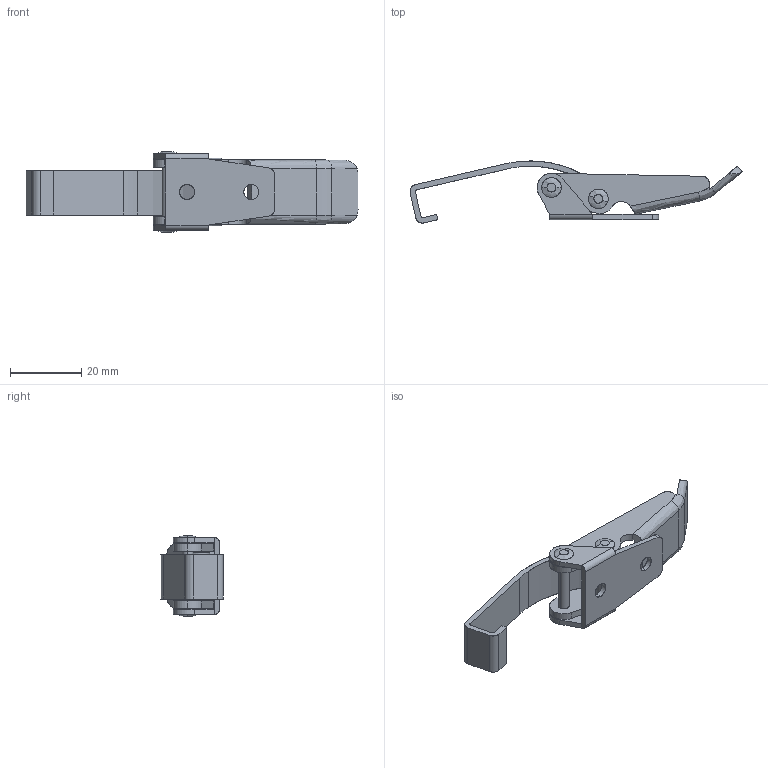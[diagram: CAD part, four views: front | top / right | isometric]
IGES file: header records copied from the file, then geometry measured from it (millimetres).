
Start section: SolidWorks IGES FILE using analytic representation for surfaces
Global section: file name: C:\Documents and Settings\brechard\Bureau\GE 61\GE 61.IGS; native system: SolidWorks 2001Plus by SolidWorks Corporation; preprocessor: Version 5.3; author: brechard; date: 050126.103237; units: millimetre
Bounding box: 93.04 x 17.41 x 22.5 mm (x, y, z)
Surface area: 7669.4 mm2 (no closed solid volume)
Topology: 0 solids, 0 shells, 121 faces, 1940 edges, 1940 vertices
Faces by surface type: bspline 65, revolution 56
